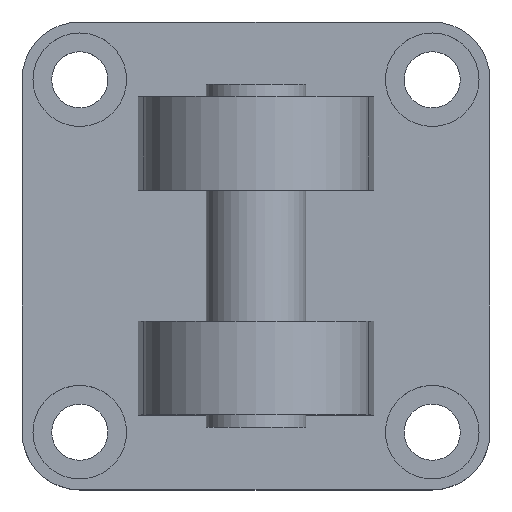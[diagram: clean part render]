
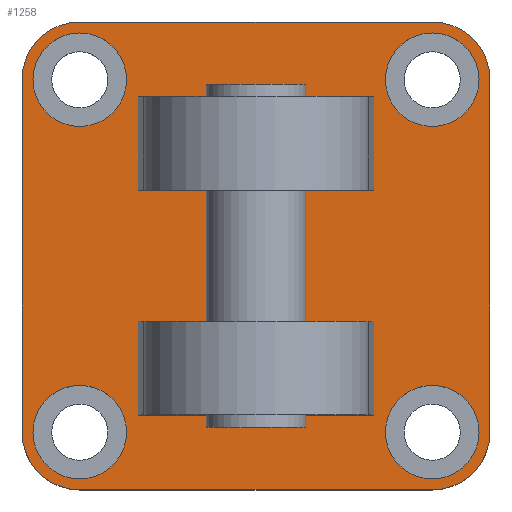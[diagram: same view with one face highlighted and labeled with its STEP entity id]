
A CAD part, top view. The second image highlights one B-rep face of the part: STEP entity #1258.
In plain terms, the highlighted planar face has unit normal (0, 0, 1).
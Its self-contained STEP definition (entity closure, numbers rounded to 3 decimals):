
#151=CARTESIAN_POINT('',(37.5,-28.25,12.));
#152=VERTEX_POINT('',#151);
#153=CARTESIAN_POINT('',(28.25,-37.5,12.));
#154=VERTEX_POINT('',#153);
#155=CARTESIAN_POINT('',(28.25,-28.25,12.));
#156=DIRECTION('',(0.0,0.0,-1.));
#157=DIRECTION('',(0.707,-0.707,0.0));
#158=AXIS2_PLACEMENT_3D('',#155,#156,#157);
#159=CIRCLE('',#158,9.25);
#160=EDGE_CURVE('',#152,#154,#159,.T.);
#202=CARTESIAN_POINT('',(37.5,28.25,12.));
#203=VERTEX_POINT('',#202);
#210=CARTESIAN_POINT('',(37.5,28.25,12.));
#211=DIRECTION('',(0.0,-1.0,0.0));
#212=VECTOR('',#211,56.5);
#213=LINE('',#210,#212);
#214=EDGE_CURVE('',#203,#152,#213,.T.);
#338=CARTESIAN_POINT('',(-37.5,28.25,12.));
#339=VERTEX_POINT('',#338);
#340=CARTESIAN_POINT('',(-28.25,37.5,12.));
#341=VERTEX_POINT('',#340);
#342=CARTESIAN_POINT('',(-28.25,28.25,12.));
#343=DIRECTION('',(0.0,0.0,-1.));
#344=DIRECTION('',(-0.707,0.707,0.0));
#345=AXIS2_PLACEMENT_3D('',#342,#343,#344);
#346=CIRCLE('',#345,9.25);
#347=EDGE_CURVE('',#339,#341,#346,.T.);
#371=CARTESIAN_POINT('',(28.25,37.5,12.));
#372=VERTEX_POINT('',#371);
#373=CARTESIAN_POINT('',(-28.25,37.5,12.));
#374=DIRECTION('',(1.0,0.0,0.0));
#375=VECTOR('',#374,56.5);
#376=LINE('',#373,#375);
#377=EDGE_CURVE('',#341,#372,#376,.T.);
#394=CARTESIAN_POINT('',(28.25,28.25,12.));
#395=DIRECTION('',(0.0,0.0,-1.));
#396=DIRECTION('',(0.707,0.707,0.0));
#397=AXIS2_PLACEMENT_3D('',#394,#395,#396);
#398=CIRCLE('',#397,9.25);
#399=EDGE_CURVE('',#372,#203,#398,.T.);
#412=CARTESIAN_POINT('',(-28.25,-37.5,12.));
#413=VERTEX_POINT('',#412);
#414=CARTESIAN_POINT('',(-37.5,-28.25,12.));
#415=VERTEX_POINT('',#414);
#416=CARTESIAN_POINT('',(-28.25,-28.25,12.));
#417=DIRECTION('',(0.0,0.0,-1.));
#418=DIRECTION('',(-0.707,-0.707,0.0));
#419=AXIS2_PLACEMENT_3D('',#416,#417,#418);
#420=CIRCLE('',#419,9.25);
#421=EDGE_CURVE('',#413,#415,#420,.T.);
#447=CARTESIAN_POINT('',(-37.5,-28.25,12.));
#448=DIRECTION('',(0.0,1.0,0.0));
#449=VECTOR('',#448,56.5);
#450=LINE('',#447,#449);
#451=EDGE_CURVE('',#415,#339,#450,.T.);
#510=CARTESIAN_POINT('',(35.75,28.25,12.));
#511=VERTEX_POINT('',#510);
#512=CARTESIAN_POINT('',(28.25,28.25,12.));
#513=DIRECTION('',(0.0,0.0,-1.0));
#514=DIRECTION('',(1.0,0.0,0.0));
#515=AXIS2_PLACEMENT_3D('',#512,#513,#514);
#516=CIRCLE('',#515,7.5);
#517=EDGE_CURVE('',#511,#511,#516,.T.);
#612=CARTESIAN_POINT('',(-20.75,-28.25,12.));
#613=VERTEX_POINT('',#612);
#614=CARTESIAN_POINT('',(-28.25,-28.25,12.));
#615=DIRECTION('',(0.0,0.0,-1.0));
#616=DIRECTION('',(1.0,0.0,0.0));
#617=AXIS2_PLACEMENT_3D('',#614,#615,#616);
#618=CIRCLE('',#617,7.5);
#619=EDGE_CURVE('',#613,#613,#618,.T.);
#714=CARTESIAN_POINT('',(-20.75,28.25,12.));
#715=VERTEX_POINT('',#714);
#716=CARTESIAN_POINT('',(-28.25,28.25,12.));
#717=DIRECTION('',(0.0,0.0,-1.0));
#718=DIRECTION('',(1.0,0.0,0.0));
#719=AXIS2_PLACEMENT_3D('',#716,#717,#718);
#720=CIRCLE('',#719,7.5);
#721=EDGE_CURVE('',#715,#715,#720,.T.);
#816=CARTESIAN_POINT('',(35.75,-28.25,12.));
#817=VERTEX_POINT('',#816);
#818=CARTESIAN_POINT('',(28.25,-28.25,12.));
#819=DIRECTION('',(0.0,0.0,-1.0));
#820=DIRECTION('',(1.0,0.0,0.0));
#821=AXIS2_PLACEMENT_3D('',#818,#819,#820);
#822=CIRCLE('',#821,7.5);
#823=EDGE_CURVE('',#817,#817,#822,.T.);
#919=CARTESIAN_POINT('',(18.89,-10.5,12.));
#920=VERTEX_POINT('',#919);
#929=CARTESIAN_POINT('',(-18.89,-10.5,12.));
#930=VERTEX_POINT('',#929);
#931=CARTESIAN_POINT('',(18.89,-10.5,12.));
#932=DIRECTION('',(-1.0,0.0,0.0));
#933=VECTOR('',#932,37.781);
#934=LINE('',#931,#933);
#935=EDGE_CURVE('',#920,#930,#934,.T.);
#965=CARTESIAN_POINT('',(18.89,10.5,12.));
#966=VERTEX_POINT('',#965);
#982=CARTESIAN_POINT('',(-18.89,10.5,12.));
#983=VERTEX_POINT('',#982);
#990=CARTESIAN_POINT('',(18.89,10.5,12.));
#991=DIRECTION('',(-1.0,0.0,0.0));
#992=VECTOR('',#991,37.781);
#993=LINE('',#990,#992);
#994=EDGE_CURVE('',#966,#983,#993,.T.);
#1016=CARTESIAN_POINT('',(18.89,-25.5,12.));
#1017=VERTEX_POINT('',#1016);
#1024=CARTESIAN_POINT('',(18.89,-10.5,12.));
#1025=DIRECTION('',(0.0,-1.0,0.0));
#1026=VECTOR('',#1025,15.);
#1027=LINE('',#1024,#1026);
#1028=EDGE_CURVE('',#920,#1017,#1027,.T.);
#1064=CARTESIAN_POINT('',(-18.89,-25.5,12.));
#1065=VERTEX_POINT('',#1064);
#1066=CARTESIAN_POINT('',(-18.89,-25.5,12.));
#1067=DIRECTION('',(0.0,1.0,0.0));
#1068=VECTOR('',#1067,15.);
#1069=LINE('',#1066,#1068);
#1070=EDGE_CURVE('',#1065,#930,#1069,.T.);
#1089=CARTESIAN_POINT('',(18.89,-25.5,12.));
#1090=DIRECTION('',(-1.0,0.0,0.0));
#1091=VECTOR('',#1090,37.781);
#1092=LINE('',#1089,#1091);
#1093=EDGE_CURVE('',#1017,#1065,#1092,.T.);
#1108=CARTESIAN_POINT('',(18.89,25.5,12.));
#1109=VERTEX_POINT('',#1108);
#1110=CARTESIAN_POINT('',(18.89,25.5,12.));
#1111=DIRECTION('',(0.0,-1.0,0.0));
#1112=VECTOR('',#1111,15.);
#1113=LINE('',#1110,#1112);
#1114=EDGE_CURVE('',#1109,#966,#1113,.T.);
#1165=CARTESIAN_POINT('',(-18.89,25.5,12.));
#1166=VERTEX_POINT('',#1165);
#1173=CARTESIAN_POINT('',(-18.89,10.5,12.));
#1174=DIRECTION('',(0.0,1.0,0.0));
#1175=VECTOR('',#1174,15.);
#1176=LINE('',#1173,#1175);
#1177=EDGE_CURVE('',#983,#1166,#1176,.T.);
#1187=CARTESIAN_POINT('',(-18.89,25.5,12.));
#1188=DIRECTION('',(1.0,0.0,0.0));
#1189=VECTOR('',#1188,37.781);
#1190=LINE('',#1187,#1189);
#1191=EDGE_CURVE('',#1166,#1109,#1190,.T.);
#1208=CARTESIAN_POINT('',(28.25,-37.5,12.));
#1209=DIRECTION('',(-1.0,0.0,0.0));
#1210=VECTOR('',#1209,56.5);
#1211=LINE('',#1208,#1210);
#1212=EDGE_CURVE('',#154,#413,#1211,.T.);
#1219=CARTESIAN_POINT('',(0.0,0.0,12.));
#1220=DIRECTION('',(0.0,0.0,1.0));
#1221=DIRECTION('',(1.0,0.0,0.0));
#1222=AXIS2_PLACEMENT_3D('',#1219,#1220,#1221);
#1223=PLANE('',#1222);
#1224=ORIENTED_EDGE('',*,*,#160,.F.);
#1225=ORIENTED_EDGE('',*,*,#214,.F.);
#1226=ORIENTED_EDGE('',*,*,#399,.F.);
#1227=ORIENTED_EDGE('',*,*,#377,.F.);
#1228=ORIENTED_EDGE('',*,*,#347,.F.);
#1229=ORIENTED_EDGE('',*,*,#451,.F.);
#1230=ORIENTED_EDGE('',*,*,#421,.F.);
#1231=ORIENTED_EDGE('',*,*,#1212,.F.);
#1232=EDGE_LOOP('',(#1224,#1225,#1226,#1227,#1228,#1229,#1230,#1231));
#1233=FACE_OUTER_BOUND('',#1232,.T.);
#1234=ORIENTED_EDGE('',*,*,#517,.T.);
#1235=EDGE_LOOP('',(#1234));
#1236=FACE_BOUND('',#1235,.T.);
#1237=ORIENTED_EDGE('',*,*,#619,.T.);
#1238=EDGE_LOOP('',(#1237));
#1239=FACE_BOUND('',#1238,.T.);
#1240=ORIENTED_EDGE('',*,*,#721,.T.);
#1241=EDGE_LOOP('',(#1240));
#1242=FACE_BOUND('',#1241,.T.);
#1243=ORIENTED_EDGE('',*,*,#823,.T.);
#1244=EDGE_LOOP('',(#1243));
#1245=FACE_BOUND('',#1244,.T.);
#1246=ORIENTED_EDGE('',*,*,#1028,.T.);
#1247=ORIENTED_EDGE('',*,*,#1093,.T.);
#1248=ORIENTED_EDGE('',*,*,#1070,.T.);
#1249=ORIENTED_EDGE('',*,*,#935,.F.);
#1250=EDGE_LOOP('',(#1246,#1247,#1248,#1249));
#1251=FACE_BOUND('',#1250,.T.);
#1252=ORIENTED_EDGE('',*,*,#994,.T.);
#1253=ORIENTED_EDGE('',*,*,#1177,.T.);
#1254=ORIENTED_EDGE('',*,*,#1191,.T.);
#1255=ORIENTED_EDGE('',*,*,#1114,.T.);
#1256=EDGE_LOOP('',(#1252,#1253,#1254,#1255));
#1257=FACE_BOUND('',#1256,.T.);
#1258=ADVANCED_FACE('',(#1233,#1236,#1239,#1242,#1245,#1251,#1257),#1223,.T.);
